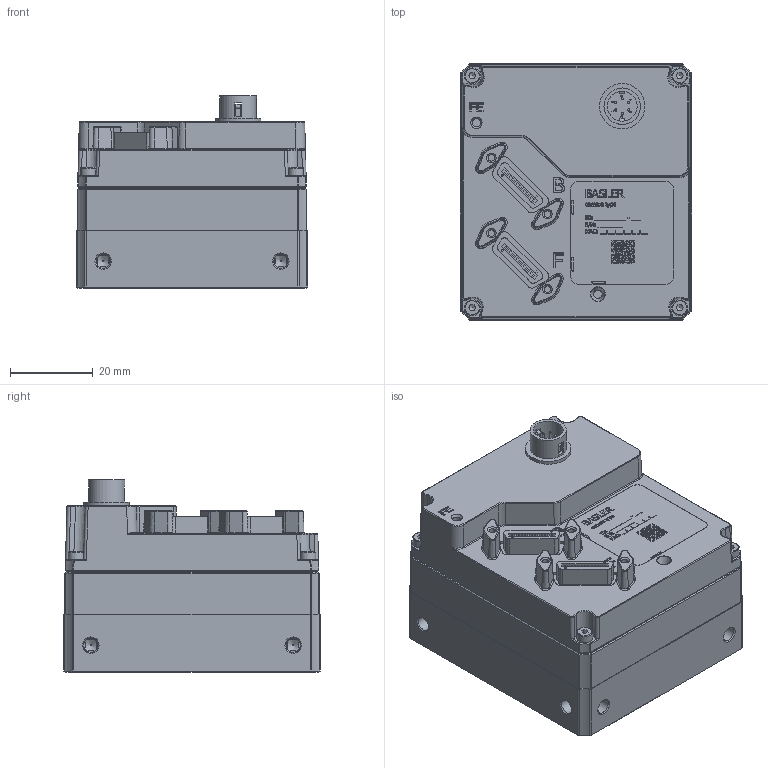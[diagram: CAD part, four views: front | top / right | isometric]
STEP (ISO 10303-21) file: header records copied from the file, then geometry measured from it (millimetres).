
FILE_DESCRIPTION((''),'2;1');
FILE_NAME('C:\cad\PSP2011Client\Work\141474413856IP02050101.stp','2014-10-31T09:29:46',(''),(''),'Autodesk Inventor 2011','Autodesk Inventor 2011','');
FILE_SCHEMA(('AUTOMOTIVE_DESIGN { 1 0 10303 214 1 1 1 1 }'));
Length unit declared in the file: millimetre
Products named in the file (1): 141474413856IP02050101
Bounding box: 56 x 62 x 46.51 mm (x, y, z)
Volume: 111448.2 mm3; surface area: 19509.5 mm2
Topology: 3 solids, 15 shells, 1713 faces, 4743 edges, 3099 vertices
Faces by surface type: plane 1012, cylinder 327, bspline 170, cone 136, torus 54, sphere 14
Full cylindrical faces by diameter (mm): 0.5 x2, 0.55 x6, 1.567 x4, 2 x4, 2.013 x1, 2.1 x5, 3.5 x12, 3.8 x4, 7.25 x1, 8.85 x1, 11 x1, 46.4 x1, 47 x1
Entity records: 59484 total; most frequent: CARTESIAN_POINT 15480, ORIENTED_EDGE 9138, DIRECTION 7980, EDGE_CURVE 4569, VECTOR 3042, LINE 3042, VERTEX_POINT 3041, AXIS2_PLACEMENT_3D 2469
